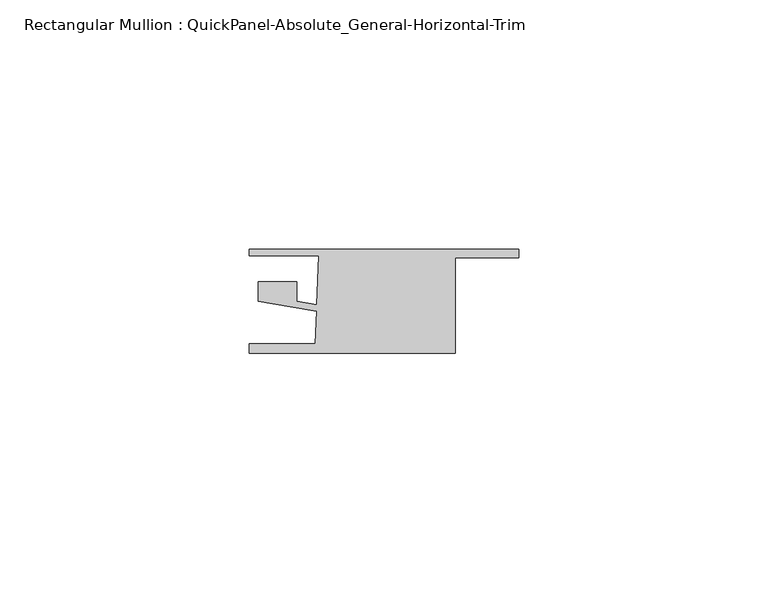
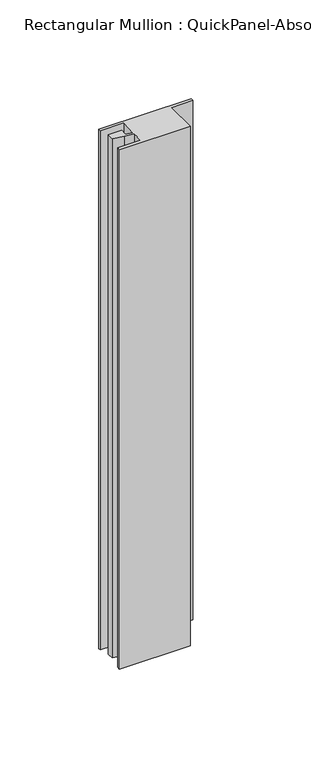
"""IFC4 building model written with IfcOpenShell, lengths in millimetres: member geometry, Rectangular Mullion : QuickPanel-Absolute_General-Horizontal-Trim."""

from ifc_helpers import new_model, si_unit, frame, origin, place, context, project, spatial, polyline, outline, extrude, source, transform, mapped, element, save


def rectangular_mullion_quickpanel_absolute_general_horizontal_18084e16(model_context):
    return source(origin(), model_context, "Body", "SweptSolid", [
        extrude(outline(polyline([(-53.975, -8.6293878), (-53.975, -6.6935423), (-40.7340873, -6.6935423), (-40.5073021, -0.1992641), (-45.757583, 0.7008023), (-52.1929157, 1.8040245), (-52.1929157, 5.6493034), (-44.4481426, 5.6493034), (-44.4481426, 1.7648465), (-40.4625736, 1.0815922), (-40.1186466, 10.9303752), (-53.975, 10.9303752), (-53.975, 12.1803727), (0.0, 12.1803727), (0.0, 10.4985348), (-12.6805114, 10.4985348), (-12.6805114, -8.6293878), (-53.975, -8.6293878)])), frame((0.0, 0.0, -320.6579255), z_axis=(0.0, 0.0, 1.0), x_axis=(1.0, 0.0, 0.0)), (0.0, 0.0, 1.0), 320.6579255),
    ])


if __name__ == "__main__":
    model = new_model("IFC4")
    model_context = context("Model", 3, world=origin())
    ifc_project = project(units=[si_unit("LENGTHUNIT", "METRE", prefix="MILLI")], contexts=[model_context])
    site = spatial("IfcSite", under=ifc_project)
    building = spatial("IfcBuilding", under=site)
    placement = place(None, origin())
    rectangular_mullion_quickpanel_absolute_general_horizontal_shape = rectangular_mullion_quickpanel_absolute_general_horizontal_18084e16(model_context)
    element("IfcMember", 1, ObjectType="Rectangular Mullion : QuickPanel-Absolute_General-Horizontal-Trim", at=placement, inside=building, context=model_context, shape_type="MappedRepresentation", body=[
        mapped(rectangular_mullion_quickpanel_absolute_general_horizontal_shape, transform((0.0, 0.0, 0.0), x_axis=(1.0, 0.0, 0.0), y_axis=(0.0, 1.0, 0.0), z_axis=(0.0, 0.0, 1.0))),
    ])
    save(model, "model.ifc")
